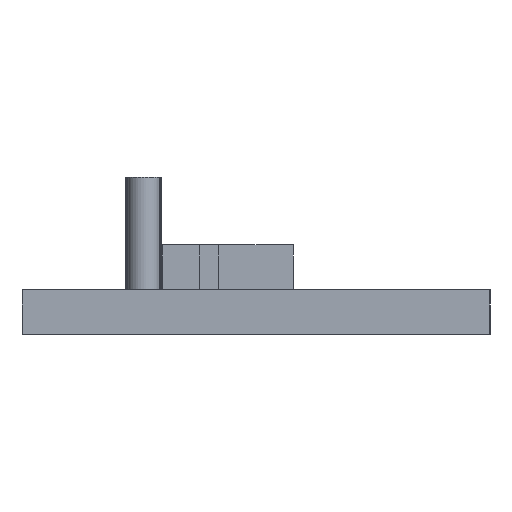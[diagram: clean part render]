
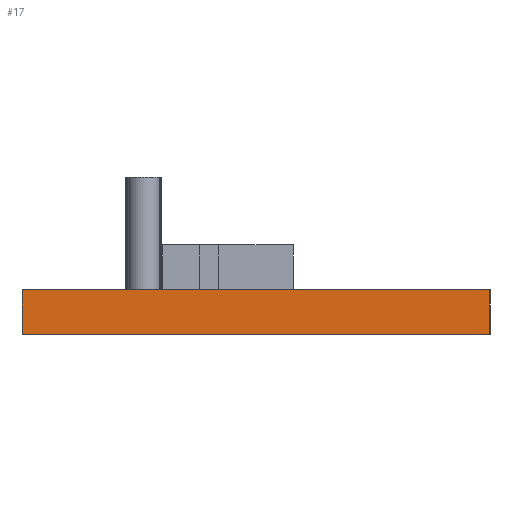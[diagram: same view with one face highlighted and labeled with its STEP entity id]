
A CAD part, left-side view. The second image highlights one B-rep face of the part: STEP entity #17.
In plain terms, the highlighted planar face has unit normal (-1, 0, 0).
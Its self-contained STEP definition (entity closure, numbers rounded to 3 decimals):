
#17 = ADVANCED_FACE('',(#18),#32,.F.);
#18 = FACE_BOUND('',#19,.F.);
#19 = EDGE_LOOP('',(#20,#55,#83,#111));
#20 = ORIENTED_EDGE('',*,*,#21,.F.);
#21 = EDGE_CURVE('',#22,#24,#26,.T.);
#22 = VERTEX_POINT('',#23);
#23 = CARTESIAN_POINT('',(-35.,-12.5,0.));
#24 = VERTEX_POINT('',#25);
#25 = CARTESIAN_POINT('',(-35.,-12.5,2.4));
#26 = SURFACE_CURVE('',#27,(#31,#43),.PCURVE_S1.);
#27 = LINE('',#28,#29);
#28 = CARTESIAN_POINT('',(-35.,-12.5,0.));
#29 = VECTOR('',#30,1.);
#30 = DIRECTION('',(0.,0.,1.));
#31 = PCURVE('',#32,#37);
#32 = PLANE('',#33);
#33 = AXIS2_PLACEMENT_3D('',#34,#35,#36);
#34 = CARTESIAN_POINT('',(-35.,-12.5,0.));
#35 = DIRECTION('',(1.,0.,0.));
#36 = DIRECTION('',(0.,0.,1.));
#37 = DEFINITIONAL_REPRESENTATION('',(#38),#42);
#38 = LINE('',#39,#40);
#39 = CARTESIAN_POINT('',(0.,0.));
#40 = VECTOR('',#41,1.);
#41 = DIRECTION('',(1.,0.));
#42 = ( GEOMETRIC_REPRESENTATION_CONTEXT(2) 
PARAMETRIC_REPRESENTATION_CONTEXT() REPRESENTATION_CONTEXT('2D SPACE',''
  ) );
#43 = PCURVE('',#44,#49);
#44 = PLANE('',#45);
#45 = AXIS2_PLACEMENT_3D('',#46,#47,#48);
#46 = CARTESIAN_POINT('',(-35.,-12.5,0.));
#47 = DIRECTION('',(0.,1.,0.));
#48 = DIRECTION('',(0.,0.,1.));
#49 = DEFINITIONAL_REPRESENTATION('',(#50),#54);
#50 = LINE('',#51,#52);
#51 = CARTESIAN_POINT('',(0.,0.));
#52 = VECTOR('',#53,1.);
#53 = DIRECTION('',(1.,0.));
#54 = ( GEOMETRIC_REPRESENTATION_CONTEXT(2) 
PARAMETRIC_REPRESENTATION_CONTEXT() REPRESENTATION_CONTEXT('2D SPACE',''
  ) );
#55 = ORIENTED_EDGE('',*,*,#56,.T.);
#56 = EDGE_CURVE('',#22,#57,#59,.T.);
#57 = VERTEX_POINT('',#58);
#58 = CARTESIAN_POINT('',(-35.,12.5,0.));
#59 = SURFACE_CURVE('',#60,(#64,#71),.PCURVE_S1.);
#60 = LINE('',#61,#62);
#61 = CARTESIAN_POINT('',(-35.,-12.5,0.));
#62 = VECTOR('',#63,1.);
#63 = DIRECTION('',(0.,1.,0.));
#64 = PCURVE('',#32,#65);
#65 = DEFINITIONAL_REPRESENTATION('',(#66),#70);
#66 = LINE('',#67,#68);
#67 = CARTESIAN_POINT('',(0.,0.));
#68 = VECTOR('',#69,1.);
#69 = DIRECTION('',(0.,-1.));
#70 = ( GEOMETRIC_REPRESENTATION_CONTEXT(2) 
PARAMETRIC_REPRESENTATION_CONTEXT() REPRESENTATION_CONTEXT('2D SPACE',''
  ) );
#71 = PCURVE('',#72,#77);
#72 = PLANE('',#73);
#73 = AXIS2_PLACEMENT_3D('',#74,#75,#76);
#74 = CARTESIAN_POINT('',(-35.,-12.5,0.));
#75 = DIRECTION('',(0.,0.,1.));
#76 = DIRECTION('',(1.,0.,0.));
#77 = DEFINITIONAL_REPRESENTATION('',(#78),#82);
#78 = LINE('',#79,#80);
#79 = CARTESIAN_POINT('',(0.,0.));
#80 = VECTOR('',#81,1.);
#81 = DIRECTION('',(0.,1.));
#82 = ( GEOMETRIC_REPRESENTATION_CONTEXT(2) 
PARAMETRIC_REPRESENTATION_CONTEXT() REPRESENTATION_CONTEXT('2D SPACE',''
  ) );
#83 = ORIENTED_EDGE('',*,*,#84,.T.);
#84 = EDGE_CURVE('',#57,#85,#87,.T.);
#85 = VERTEX_POINT('',#86);
#86 = CARTESIAN_POINT('',(-35.,12.5,2.4));
#87 = SURFACE_CURVE('',#88,(#92,#99),.PCURVE_S1.);
#88 = LINE('',#89,#90);
#89 = CARTESIAN_POINT('',(-35.,12.5,0.));
#90 = VECTOR('',#91,1.);
#91 = DIRECTION('',(0.,0.,1.));
#92 = PCURVE('',#32,#93);
#93 = DEFINITIONAL_REPRESENTATION('',(#94),#98);
#94 = LINE('',#95,#96);
#95 = CARTESIAN_POINT('',(0.,-25.));
#96 = VECTOR('',#97,1.);
#97 = DIRECTION('',(1.,0.));
#98 = ( GEOMETRIC_REPRESENTATION_CONTEXT(2) 
PARAMETRIC_REPRESENTATION_CONTEXT() REPRESENTATION_CONTEXT('2D SPACE',''
  ) );
#99 = PCURVE('',#100,#105);
#100 = PLANE('',#101);
#101 = AXIS2_PLACEMENT_3D('',#102,#103,#104);
#102 = CARTESIAN_POINT('',(-35.,12.5,0.));
#103 = DIRECTION('',(0.,1.,0.));
#104 = DIRECTION('',(0.,0.,1.));
#105 = DEFINITIONAL_REPRESENTATION('',(#106),#110);
#106 = LINE('',#107,#108);
#107 = CARTESIAN_POINT('',(0.,0.));
#108 = VECTOR('',#109,1.);
#109 = DIRECTION('',(1.,0.));
#110 = ( GEOMETRIC_REPRESENTATION_CONTEXT(2) 
PARAMETRIC_REPRESENTATION_CONTEXT() REPRESENTATION_CONTEXT('2D SPACE',''
  ) );
#111 = ORIENTED_EDGE('',*,*,#112,.F.);
#112 = EDGE_CURVE('',#24,#85,#113,.T.);
#113 = SURFACE_CURVE('',#114,(#118,#125),.PCURVE_S1.);
#114 = LINE('',#115,#116);
#115 = CARTESIAN_POINT('',(-35.,-12.5,2.4));
#116 = VECTOR('',#117,1.);
#117 = DIRECTION('',(0.,1.,0.));
#118 = PCURVE('',#32,#119);
#119 = DEFINITIONAL_REPRESENTATION('',(#120),#124);
#120 = LINE('',#121,#122);
#121 = CARTESIAN_POINT('',(2.4,0.));
#122 = VECTOR('',#123,1.);
#123 = DIRECTION('',(0.,-1.));
#124 = ( GEOMETRIC_REPRESENTATION_CONTEXT(2) 
PARAMETRIC_REPRESENTATION_CONTEXT() REPRESENTATION_CONTEXT('2D SPACE',''
  ) );
#125 = PCURVE('',#126,#131);
#126 = PLANE('',#127);
#127 = AXIS2_PLACEMENT_3D('',#128,#129,#130);
#128 = CARTESIAN_POINT('',(-35.,-12.5,2.4));
#129 = DIRECTION('',(0.,0.,1.));
#130 = DIRECTION('',(1.,0.,0.));
#131 = DEFINITIONAL_REPRESENTATION('',(#132),#136);
#132 = LINE('',#133,#134);
#133 = CARTESIAN_POINT('',(0.,0.));
#134 = VECTOR('',#135,1.);
#135 = DIRECTION('',(0.,1.));
#136 = ( GEOMETRIC_REPRESENTATION_CONTEXT(2) 
PARAMETRIC_REPRESENTATION_CONTEXT() REPRESENTATION_CONTEXT('2D SPACE',''
  ) );
